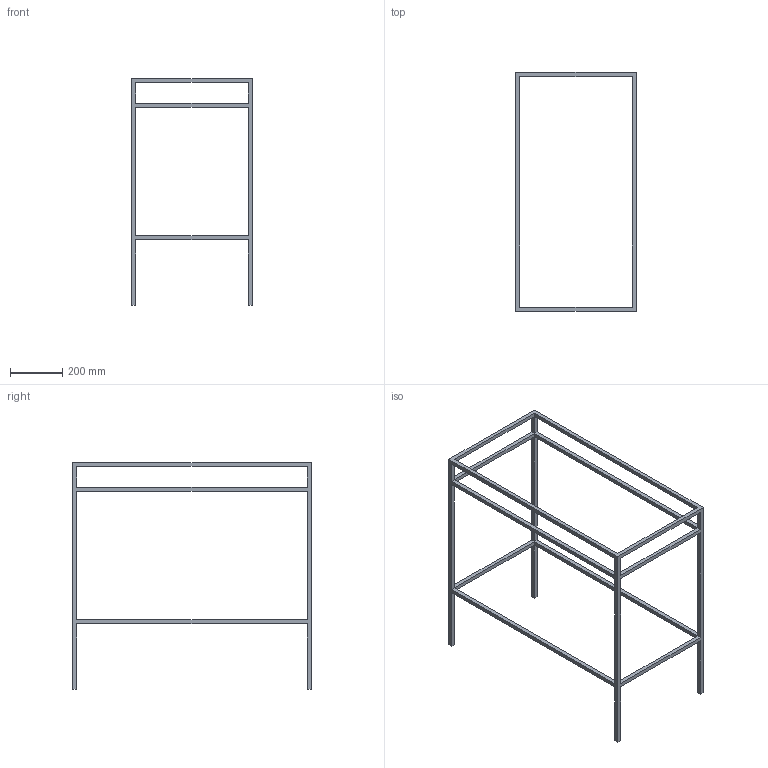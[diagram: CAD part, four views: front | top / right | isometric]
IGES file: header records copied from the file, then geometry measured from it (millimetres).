
Start section: START RECORD GO HERE.
Global section: file name: 2071.igs; native system: DASSAULT SYSTEMES CATIA V5 R19 - www.3ds.com; preprocessor: CATIA Version 5 Release 19 SP 5 ; author: gioge; organization: LAPTOP-G94B6G74; date: 20201003.152551; units: millimetre
Bounding box: 460 x 910 x 865 mm (x, y, z)
Surface area: 675600 mm2 (no closed solid volume)
Topology: 0 solids, 0 shells, 65 faces, 312 edges, 312 vertices
Faces by surface type: plane 65
